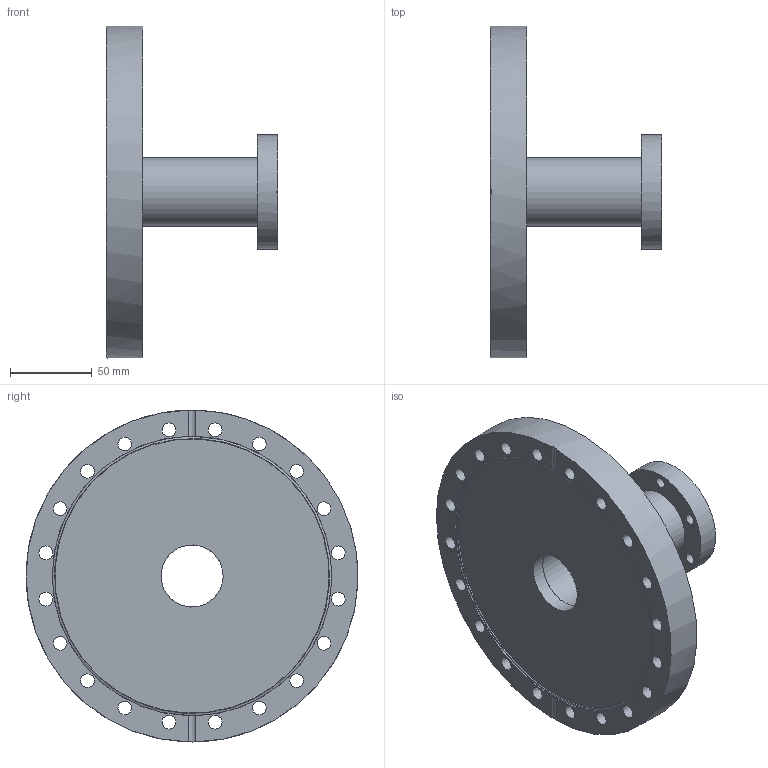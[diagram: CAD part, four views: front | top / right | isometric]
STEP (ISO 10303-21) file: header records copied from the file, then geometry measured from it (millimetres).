
FILE_DESCRIPTION( ( 'Unknown' ), '1' );
FILE_NAME( 'X:/Daten ( aktueller Bestand )/Projekte und Zeichnungen/Solid Edge/STP-Dateien/CF-Teile/7166R4.stp', 'Unknown', ( 'Unknown' ), ( 'Unknown' ), 'PSStep 14.0', 'Unknown', ' ' );
FILE_SCHEMA( ( 'AUTOMOTIVE_DESIGN { 1 0 10303 214 1 1 1 1 }' ) );
Length unit declared in the file: millimetre
Products named in the file (10): 7163R-1_1; 7163R-2_1; 7166F-1; 7166F-3; Assem1_2; Assem1
Assembly tree (9 placements, depth 4):
  Assem1
    7166F-1
      7166F-1
    7166F-3
      7166F-3
    Assem1_2
      7163R-1_1
        7163R-1_1
      7163R-2_1
        7163R-2_1
Bounding box: 105 x 202.94 x 203 mm (x, y, z)
Volume: 691931.1 mm3; surface area: 126984.2 mm2
Topology: 4 solids, 4 shells, 60 faces, 172 edges, 122 vertices
Faces by surface type: cylinder 42, plane 14, cone 4
Full cylindrical faces by diameter (mm): 6.6 x6, 8.4 x20, 38 x3, 42 x1, 42.3 x3, 48 x1, 48.2 x1, 70 x1, 171 x1, 203 x1
Entity records: 2474 total; most frequent: CARTESIAN_POINT 395, DIRECTION 326, ORIENTED_EDGE 200, EDGE_LOOP 164, AXIS2_PLACEMENT_3D 159, EDGE_CURVE 100, FACE_OUTER_BOUND 98, VERTEX_POINT 92
